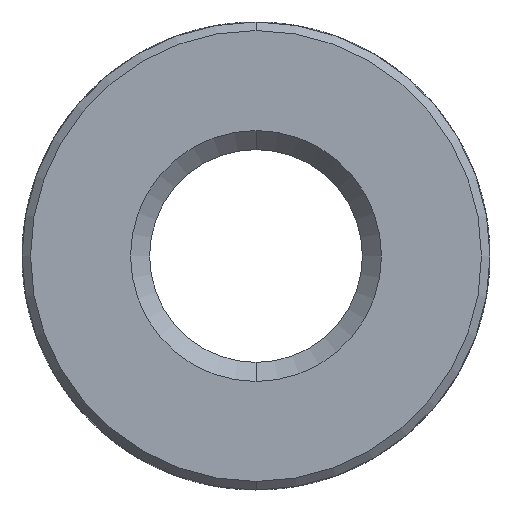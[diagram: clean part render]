
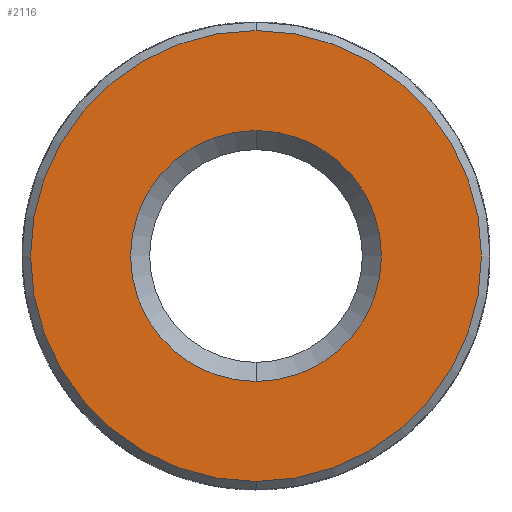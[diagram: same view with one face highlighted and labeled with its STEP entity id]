
A CAD part, front view. The second image highlights one B-rep face of the part: STEP entity #2116.
In plain terms, the highlighted planar face has unit normal (0, -1, 0).
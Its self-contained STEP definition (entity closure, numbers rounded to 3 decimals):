
#96 = CARTESIAN_POINT ( 'NONE',  ( 0., -5.3, -2.65 ) ) ;
#429 = CARTESIAN_POINT ( 'NONE',  ( 0., -5.3, -1.475 ) ) ;
#487 = AXIS2_PLACEMENT_3D ( 'NONE', #2834, #3141, #2464 ) ;
#495 = EDGE_CURVE ( 'NONE', #3215, #3243, #2420, .T. ) ;
#501 = EDGE_CURVE ( 'NONE', #3243, #3215, #3463, .T. ) ;
#613 = ORIENTED_EDGE ( 'NONE', *, *, #3631, .T. ) ;
#790 = CIRCLE ( 'NONE', #3481, 2.65 ) ;
#817 = ORIENTED_EDGE ( 'NONE', *, *, #501, .T. ) ;
#971 = FACE_OUTER_BOUND ( 'NONE', #3994, .T. ) ;
#1009 = VERTEX_POINT ( 'NONE', #3195 ) ;
#1020 = DIRECTION ( 'NONE',  ( 0., -1., 0. ) ) ;
#1191 = FACE_BOUND ( 'NONE', #1533, .T. ) ;
#1383 = DIRECTION ( 'NONE',  ( 0., 0., -1. ) ) ;
#1520 = VERTEX_POINT ( 'NONE', #96 ) ;
#1533 = EDGE_LOOP ( 'NONE', ( #1557, #817 ) ) ;
#1557 = ORIENTED_EDGE ( 'NONE', *, *, #495, .T. ) ;
#1653 = CARTESIAN_POINT ( 'NONE',  ( 0., -5.3, 0. ) ) ;
#1748 = PLANE ( 'NONE',  #3862 ) ;
#2116 = ADVANCED_FACE ( 'NONE', ( #971, #1191 ), #1748, .T. ) ;
#2420 = CIRCLE ( 'NONE', #2495, 1.475 ) ;
#2434 = DIRECTION ( 'NONE',  ( 0., 1., 0. ) ) ;
#2464 = DIRECTION ( 'NONE',  ( 0., 0., -1. ) ) ;
#2495 = AXIS2_PLACEMENT_3D ( 'NONE', #1653, #2434, #3432 ) ;
#2590 = EDGE_CURVE ( 'NONE', #1009, #1520, #790, .T. ) ;
#2688 = DIRECTION ( 'NONE',  ( 0., -1., 0. ) ) ;
#2785 = CIRCLE ( 'NONE', #487, 2.65 ) ;
#2834 = CARTESIAN_POINT ( 'NONE',  ( 0., -5.3, 0. ) ) ;
#2919 = DIRECTION ( 'NONE',  ( 0., 0., -1. ) ) ;
#2952 = CARTESIAN_POINT ( 'NONE',  ( 0., -5.3, 1.475 ) ) ;
#3111 = AXIS2_PLACEMENT_3D ( 'NONE', #3938, #3590, #3296 ) ;
#3141 = DIRECTION ( 'NONE',  ( 0., -1., 0. ) ) ;
#3195 = CARTESIAN_POINT ( 'NONE',  ( 0., -5.3, 2.65 ) ) ;
#3215 = VERTEX_POINT ( 'NONE', #429 ) ;
#3243 = VERTEX_POINT ( 'NONE', #2952 ) ;
#3269 = ORIENTED_EDGE ( 'NONE', *, *, #2590, .T. ) ;
#3296 = DIRECTION ( 'NONE',  ( 0., 0., -1. ) ) ;
#3432 = DIRECTION ( 'NONE',  ( 0., 0., -1. ) ) ;
#3463 = CIRCLE ( 'NONE', #3111, 1.475 ) ;
#3481 = AXIS2_PLACEMENT_3D ( 'NONE', #3956, #1020, #1383 ) ;
#3590 = DIRECTION ( 'NONE',  ( 0., 1., 0. ) ) ;
#3631 = EDGE_CURVE ( 'NONE', #1520, #1009, #2785, .T. ) ;
#3862 = AXIS2_PLACEMENT_3D ( 'NONE', #3872, #2688, #2919 ) ;
#3872 = CARTESIAN_POINT ( 'NONE',  ( 0., -5.3, 2.75 ) ) ;
#3938 = CARTESIAN_POINT ( 'NONE',  ( 0., -5.3, 0. ) ) ;
#3956 = CARTESIAN_POINT ( 'NONE',  ( 0., -5.3, 0. ) ) ;
#3994 = EDGE_LOOP ( 'NONE', ( #3269, #613 ) ) ;
